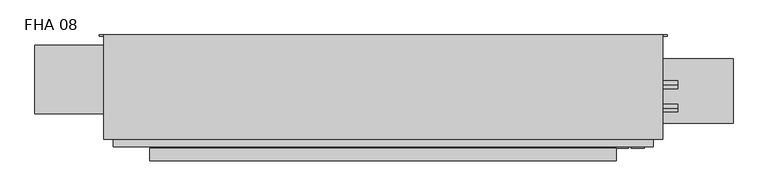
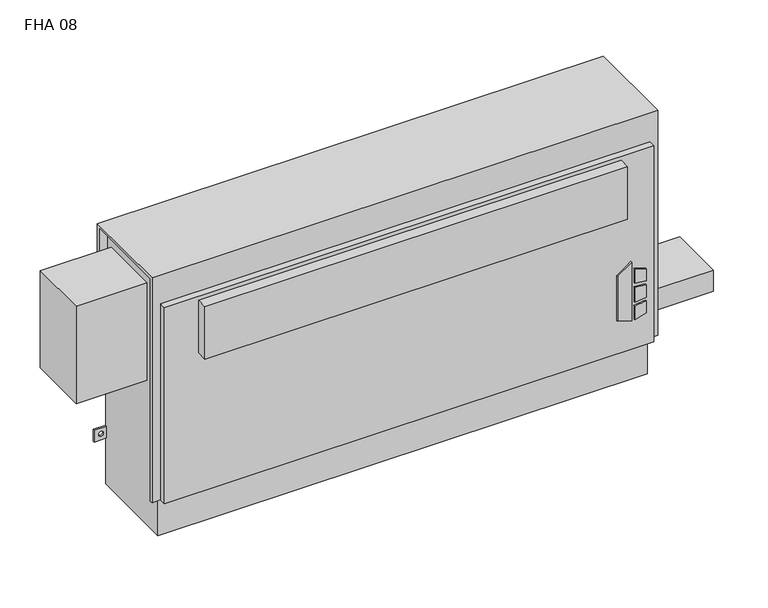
"""IFC4 building model written with IfcOpenShell, lengths in millimetres: proxy geometry, Vertical_Fan_Coil_Unit_-_FHA_-_IEC_-_2-Pipe_FS-FR_RH_2022 : FHA 08."""

from ifc_helpers import new_model, si_unit, point, frame, frame_2d, origin, place, context, project, spatial, polyline, circle_curve, trimmed, segment, composite_curve, outline, extrude, source, transform, mapped, element, save
from ifc_brep_helpers import plane_surface, revolved_surface, advanced_brep


def fha_08_7497d612(model_context):
    return source(origin(), model_context, "Body", "SolidModel", [
        extrude(outline(polyline([(172.5771459, 627.1368862), (162.6290756, 659.3102728), (304.8, 659.3102728), (281.7779939, 627.1368862), (172.5771459, 627.1368862)])), frame((0.0, 9.525, 0.0), z_axis=(0.0, 1.0, 0.0), x_axis=(0.0, 0.0, 1.0)), (0.0, 0.0, 1.0), 3.175),
        extrude(outline(polyline([(251.5764313, 666.0686058), (248.3740387, 692.15), (277.6028798, 692.15), (285.6672948, 666.0686058), (251.5764313, 666.0686058)])), frame((0.0, 9.525, 0.0), z_axis=(0.0, 1.0, 0.0), x_axis=(0.0, 0.0, 1.0)), (0.0, 0.0, 1.0), 3.175),
        extrude(outline(polyline([(199.7129044, 692.15), (196.0474034, 666.0686058), (162.6290756, 666.0686058), (171.2633128, 692.15), (199.7129044, 692.15)])), frame((0.0, 9.525, 0.0), z_axis=(0.0, 1.0, 0.0), x_axis=(0.0, 0.0, 1.0)), (0.0, 0.0, 1.0), 3.175),
        extrude(outline(polyline([(239.0280658, 692.15), (241.3098921, 666.0686058), (205.3723436, 666.0686058), (208.1136086, 692.15), (239.0280658, 692.15)])), frame((0.0, 9.525, 0.0), z_axis=(0.0, 1.0, 0.0), x_axis=(0.0, 0.0, 1.0)), (0.0, 0.0, 1.0), 3.175),
        extrude(outline(composite_curve([segment(trimmed(circle_curve(frame_2d((774.7, 128.5875)), 9.525), [point((765.175, 128.5875))], [point((784.225, 128.5875))], False, "CARTESIAN"), True, "CONTINUOUS"), segment(trimmed(circle_curve(frame_2d((774.7, 128.5875)), 9.525), [point((784.225, 128.5875))], [point((765.175, 128.5875))], False, "CARTESIAN"), True, "CONTINUOUS")], self_intersect=False)), frame((0.0, 0.0, 101.6), z_axis=(0.0, 0.0, 1.0), x_axis=(1.0, 0.0, 0.0)), (0.0, 0.0, 1.0), 25.4),
        extrude(outline(polyline([(876.3, 195.2625), (876.3, 61.9125), (711.2, 61.9125), (711.2, 195.2625), (876.3, 195.2625)])), frame((0.0, 0.0, 127.0), z_axis=(0.0, 0.0, 1.0), x_axis=(1.0, 0.0, 0.0)), (0.0, 0.0, 1.0), 50.8),
        extrude(outline(polyline([(635.0, -15.875), (-330.2, -15.875), (-330.2, 9.525), (635.0, 9.525), (635.0, -15.875)])), frame((0.0, 0.0, 431.8), z_axis=(0.0, 0.0, 1.0), x_axis=(1.0, 0.0, 0.0)), (0.0, 0.0, 1.0), 127.0),
        extrude(outline(composite_curve([segment(trimmed(circle_curve(frame_2d((93.1926, 488.0102)), 7.9375), [point((93.1926, 480.0727))], [point((93.1926, 495.9477))], False, "CARTESIAN"), True, "CONTINUOUS"), segment(trimmed(circle_curve(frame_2d((93.1926, 488.0102)), 7.9375), [point((93.1926, 495.9477))], [point((93.1926, 480.0727))], False, "CARTESIAN"), True, "CONTINUOUS")], self_intersect=False)), frame((711.2, 0.0, 0.0), z_axis=(1.0, 0.0, 0.0), x_axis=(0.0, 1.0, 0.0)), (0.0, 0.0, 1.0), 50.8),
        extrude(outline(composite_curve([segment(trimmed(circle_curve(frame_2d((141.3002, 461.3402)), 7.9375), [point((141.3002, 453.4027))], [point((141.3002, 469.2777))], False, "CARTESIAN"), True, "CONTINUOUS"), segment(trimmed(circle_curve(frame_2d((141.3002, 461.3402)), 7.9375), [point((141.3002, 469.2777))], [point((141.3002, 453.4027))], False, "CARTESIAN"), True, "CONTINUOUS")], self_intersect=False)), frame((711.2, 0.0, 0.0), z_axis=(1.0, 0.0, 0.0), x_axis=(0.0, 1.0, 0.0)), (0.0, 0.0, 1.0), 50.8),
        extrude(outline(polyline([(-406.4, 223.266), (-406.4, 81.534), (-568.325, 81.534), (-568.325, 223.266), (-406.4, 223.266)])), frame((0.0, 0.0, 349.25), z_axis=(0.0, 0.0, 1.0), x_axis=(1.0, 0.0, 0.0)), (0.0, 0.0, 1.0), 234.95),
        advanced_brep(
        [(730.25, 244.475, 635.0), (-425.45, 244.475, 635.0), (-425.45, 28.575, 635.0), (730.25, 28.575, 635.0), (-406.4, 244.475, 0.0), (711.2, 244.475, 0.0), (711.2, 38.1, 0.0), (-406.4, 38.1, 0.0), (730.25, 244.475, 558.8), (711.2, 244.475, 558.8), (711.2, 244.475, 414.3375), (739.775, 244.475, 414.3375), (739.775, 244.475, 385.7625), (711.2, 244.475, 385.7625), (711.2, 244.475, 287.3375), (739.775, 244.475, 287.3375), (739.775, 244.475, 258.7625), (711.2, 244.475, 258.7625), (711.2, 244.475, 141.2875), (739.775, 244.475, 141.2875), (739.775, 244.475, 112.7125), (711.2, 244.475, 112.7125), (-406.4, 244.475, 112.7125), (-434.975, 244.475, 112.7125), (-434.975, 244.475, 141.2875), (-406.4, 244.475, 141.2875), (-406.4, 244.475, 258.7625), (-434.975, 244.475, 258.7625), (-434.975, 244.475, 287.3375), (-406.4, 244.475, 287.3375), (-406.4, 244.475, 385.7625), (-434.975, 244.475, 385.7625), (-434.975, 244.475, 414.3375), (-406.4, 244.475, 414.3375), (-406.4, 244.475, 558.8), (-425.45, 244.475, 558.8), (729.4626, 244.475, 127.0), (718.3374, 244.475, 127.0), (-413.5374, 244.475, 127.0), (-424.6626, 244.475, 127.0), (729.4626, 244.475, 273.05), (718.3374, 244.475, 273.05), (-413.5374, 244.475, 273.05), (-424.6626, 244.475, 273.05), (729.4626, 244.475, 400.05), (718.3374, 244.475, 400.05), (-413.5374, 244.475, 400.05), (-424.6626, 244.475, 400.05), (-425.45, 238.125, 558.8), (-425.45, 238.125, 628.65), (-425.45, 34.925, 628.65), (-425.45, 34.925, 92.075), (-425.45, 28.575, 92.075), (711.2, 12.7, 565.15), (-406.4, 12.7, 565.15), (-406.4, 12.7, 92.075), (711.2, 12.7, 92.075), (730.25, 28.575, 92.075), (730.25, 34.925, 92.075), (730.25, 34.925, 628.65), (730.25, 238.125, 628.65), (730.25, 238.125, 558.8), (-406.4, 28.575, 92.075), (-406.4, 28.575, 565.15), (711.2, 28.575, 565.15), (711.2, 28.575, 92.075), (-406.4, 34.925, 92.075), (-406.4, 38.1, 92.075), (711.2, 38.1, 92.075), (711.2, 34.925, 92.075), (711.2, 241.3, 112.7125), (711.2, 241.3, 141.2875), (711.2, 241.3, 258.7625), (711.2, 241.3, 287.3375), (711.2, 241.3, 385.7625), (711.2, 241.3, 414.3375), (711.2, 238.125, 558.8), (711.2, 238.125, 628.65), (711.2, 34.925, 628.65), (-406.4, 34.925, 628.65), (-406.4, 238.125, 628.65), (-406.4, 238.125, 558.8), (-406.4, 241.3, 414.3375), (-406.4, 241.3, 385.7625), (-406.4, 241.3, 287.3375), (-406.4, 241.3, 258.7625), (-406.4, 241.3, 141.2875), (-406.4, 241.3, 112.7125), (739.775, 241.3, 112.7125), (739.775, 241.3, 141.2875), (718.3374, 241.3, 127.0), (729.4626, 241.3, 127.0), (739.775, 241.3, 258.7625), (739.775, 241.3, 287.3375), (718.3374, 241.3, 273.05), (729.4626, 241.3, 273.05), (739.775, 241.3, 385.7625), (739.775, 241.3, 414.3375), (718.3374, 241.3, 400.05), (729.4626, 241.3, 400.05), (-434.975, 241.3, 141.2875), (-434.975, 241.3, 112.7125), (-424.6626, 241.3, 127.0), (-413.5374, 241.3, 127.0), (-434.975, 241.3, 287.3375), (-434.975, 241.3, 258.7625), (-424.6626, 241.3, 273.05), (-413.5374, 241.3, 273.05), (-434.975, 241.3, 414.3375), (-434.975, 241.3, 385.7625), (-424.6626, 241.3, 400.05), (-413.5374, 241.3, 400.05)],
        [
            (0, 1),
            (1, 2),
            (2, 3),
            (3, 0),
            (4, 5),
            (5, 6),
            (6, 7),
            (7, 4),
            (0, 8),
            (8, 9),
            (9, 10),
            (10, 11),
            (11, 12),
            (12, 13),
            (13, 14),
            (14, 15),
            (15, 16),
            (16, 17),
            (17, 18),
            (18, 19),
            (19, 20),
            (20, 21),
            (21, 5),
            (4, 22),
            (22, 23),
            (23, 24),
            (24, 25),
            (25, 26),
            (26, 27),
            (27, 28),
            (28, 29),
            (29, 30),
            (30, 31),
            (31, 32),
            (32, 33),
            (33, 34),
            (34, 35),
            (35, 1),
            (36, 37, circle_curve(frame((723.9, 244.475, 127.0), z_axis=(0.0, -1.0, 0.0), x_axis=(-1.0, 0.0, 0.0)), 5.5626)),
            (37, 36, circle_curve(frame((723.9, 244.475, 127.0), z_axis=(0.0, -1.0, 0.0), x_axis=(-1.0, 0.0, 0.0)), 5.5626)),
            (38, 39, circle_curve(frame((-419.1, 244.475, 127.0), z_axis=(0.0, -1.0, 0.0), x_axis=(-1.0, 0.0, 0.0)), 5.5626)),
            (39, 38, circle_curve(frame((-419.1, 244.475, 127.0), z_axis=(0.0, -1.0, 0.0), x_axis=(-1.0, 0.0, 0.0)), 5.5626)),
            (40, 41, circle_curve(frame((723.9, 244.475, 273.05), z_axis=(0.0, -1.0, 0.0), x_axis=(-1.0, 0.0, 0.0)), 5.5626)),
            (41, 40, circle_curve(frame((723.9, 244.475, 273.05), z_axis=(0.0, -1.0, 0.0), x_axis=(-1.0, 0.0, 0.0)), 5.5626)),
            (42, 43, circle_curve(frame((-419.1, 244.475, 273.05), z_axis=(0.0, -1.0, 0.0), x_axis=(-1.0, 0.0, 0.0)), 5.5626)),
            (43, 42, circle_curve(frame((-419.1, 244.475, 273.05), z_axis=(0.0, -1.0, 0.0), x_axis=(-1.0, 0.0, 0.0)), 5.5626)),
            (44, 45, circle_curve(frame((723.9, 244.475, 400.05), z_axis=(0.0, -1.0, 0.0), x_axis=(-1.0, 0.0, 0.0)), 5.5626)),
            (45, 44, circle_curve(frame((723.9, 244.475, 400.05), z_axis=(0.0, -1.0, 0.0), x_axis=(-1.0, 0.0, 0.0)), 5.5626)),
            (46, 47, circle_curve(frame((-419.1, 244.475, 400.05), z_axis=(0.0, -1.0, 0.0), x_axis=(-1.0, 0.0, 0.0)), 5.5626)),
            (47, 46, circle_curve(frame((-419.1, 244.475, 400.05), z_axis=(0.0, -1.0, 0.0), x_axis=(-1.0, 0.0, 0.0)), 5.5626)),
            (35, 48),
            (48, 49),
            (49, 50),
            (50, 51),
            (51, 52),
            (52, 2),
            (53, 54),
            (54, 55),
            (55, 56),
            (56, 53),
            (3, 57),
            (57, 58),
            (58, 59),
            (59, 60),
            (60, 61),
            (61, 8),
            (52, 62),
            (62, 63),
            (63, 64),
            (64, 65),
            (65, 57),
            (53, 64),
            (63, 54),
            (55, 62),
            (51, 66),
            (66, 67),
            (67, 68),
            (68, 69),
            (69, 58),
            (65, 56),
            (6, 68),
            (67, 7),
            (21, 70),
            (70, 71),
            (71, 18),
            (17, 72),
            (72, 73),
            (73, 14),
            (13, 74),
            (74, 75),
            (75, 10),
            (9, 76),
            (76, 77),
            (77, 78),
            (78, 69),
            (66, 79),
            (79, 80),
            (80, 81),
            (81, 34),
            (33, 82),
            (82, 83),
            (83, 30),
            (29, 84),
            (84, 85),
            (85, 26),
            (25, 86),
            (86, 87),
            (87, 22),
            (76, 61),
            (60, 77),
            (78, 59),
            (50, 79),
            (81, 48),
            (80, 49),
            (70, 88),
            (88, 89),
            (89, 71),
            (90, 91, circle_curve(frame((723.9, 241.3, 127.0), z_axis=(0.0, 1.0, 0.0), x_axis=(-1.0, 0.0, 0.0)), 5.5626)),
            (91, 90, circle_curve(frame((723.9, 241.3, 127.0), z_axis=(0.0, 1.0, 0.0), x_axis=(-1.0, 0.0, 0.0)), 5.5626)),
            (92, 93),
            (93, 73),
            (72, 92),
            (94, 95, circle_curve(frame((723.9, 241.3, 273.05), z_axis=(0.0, 1.0, 0.0), x_axis=(-1.0, 0.0, 0.0)), 5.5626)),
            (95, 94, circle_curve(frame((723.9, 241.3, 273.05), z_axis=(0.0, 1.0, 0.0), x_axis=(-1.0, 0.0, 0.0)), 5.5626)),
            (96, 97),
            (97, 75),
            (74, 96),
            (98, 99, circle_curve(frame((723.9, 241.3, 400.05), z_axis=(0.0, 1.0, 0.0), x_axis=(-1.0, 0.0, 0.0)), 5.5626)),
            (99, 98, circle_curve(frame((723.9, 241.3, 400.05), z_axis=(0.0, 1.0, 0.0), x_axis=(-1.0, 0.0, 0.0)), 5.5626)),
            (100, 101),
            (101, 87),
            (86, 100),
            (102, 103, circle_curve(frame((-419.1, 241.3, 127.0), z_axis=(0.0, 1.0, 0.0), x_axis=(-1.0, 0.0, 0.0)), 5.5626)),
            (103, 102, circle_curve(frame((-419.1, 241.3, 127.0), z_axis=(0.0, 1.0, 0.0), x_axis=(-1.0, 0.0, 0.0)), 5.5626)),
            (84, 104),
            (104, 105),
            (105, 85),
            (106, 107, circle_curve(frame((-419.1, 241.3, 273.05), z_axis=(0.0, 1.0, 0.0), x_axis=(-1.0, 0.0, 0.0)), 5.5626)),
            (107, 106, circle_curve(frame((-419.1, 241.3, 273.05), z_axis=(0.0, 1.0, 0.0), x_axis=(-1.0, 0.0, 0.0)), 5.5626)),
            (108, 109),
            (109, 83),
            (82, 108),
            (110, 111, circle_curve(frame((-419.1, 241.3, 400.05), z_axis=(0.0, 1.0, 0.0), x_axis=(-1.0, 0.0, 0.0)), 5.5626)),
            (111, 110, circle_curve(frame((-419.1, 241.3, 400.05), z_axis=(0.0, 1.0, 0.0), x_axis=(-1.0, 0.0, 0.0)), 5.5626)),
            (89, 19),
            (88, 20),
            (16, 92),
            (93, 15),
            (12, 96),
            (97, 11),
            (24, 100),
            (101, 23),
            (105, 27),
            (104, 28),
            (32, 108),
            (109, 31),
            (90, 37),
            (36, 91),
            (102, 39),
            (38, 103),
            (94, 41),
            (40, 95),
            (106, 43),
            (42, 107),
            (98, 45),
            (44, 99),
            (110, 47),
            (46, 111),
        ],
        [
            plane_surface(frame((-425.45, 244.475, 635.0), z_axis=(0.0, 0.0, 1.0), x_axis=(-1.0, 0.0, 0.0))),
            plane_surface(frame((-425.45, 244.475, 0.0), z_axis=(0.0, 0.0, -1.0), x_axis=(1.0, 0.0, 0.0))),
            plane_surface(frame((730.25, 244.475, 635.0), z_axis=(0.0, 1.0, 0.0), x_axis=(0.0, 0.0, -1.0))),
            plane_surface(frame((-425.45, 244.475, 635.0), z_axis=(-1.0, 0.0, 0.0), x_axis=(0.0, 0.0, -1.0))),
            plane_surface(frame((-425.45, 12.7, 635.0), z_axis=(0.0, -1.0, 0.0), x_axis=(0.0, 0.0, -1.0))),
            plane_surface(frame((730.25, 12.7, 635.0), z_axis=(1.0, 0.0, 0.0), x_axis=(0.0, 0.0, -1.0))),
            plane_surface(frame((-704.85, 28.575, 635.0), z_axis=(0.0, -1.0, 0.0), x_axis=(1.0, 0.0, 0.0))),
            plane_surface(frame((-704.85, 28.575, 565.15), z_axis=(0.0, 0.0, 1.0), x_axis=(1.0, 0.0, 0.0))),
            plane_surface(frame((-425.45, 12.7, 92.075), z_axis=(0.0, 0.0, -1.0), x_axis=(1.0, 0.0, 0.0))),
            plane_surface(frame((-425.45, 38.1, 92.075), z_axis=(0.0, -1.0, 0.0), x_axis=(1.0, 0.0, 0.0))),
            plane_surface(frame((711.2, 28.575, 92.075), z_axis=(1.0, 0.0, 0.0), x_axis=(0.0, -1.0, 0.0))),
            plane_surface(frame((-406.4, 28.575, 565.15), z_axis=(-1.0, 0.0, 0.0), x_axis=(0.0, -1.0, 0.0))),
            plane_surface(frame((711.2, 244.475, 0.0), z_axis=(1.0, 0.0, 0.0), x_axis=(0.0, -1.0, 0.0))),
            plane_surface(frame((-406.4, 244.475, 92.075), z_axis=(-1.0, 0.0, 0.0), x_axis=(0.0, -1.0, 0.0))),
            plane_surface(frame((711.2, 238.125, 628.65), z_axis=(0.0, -1.0, 0.0), x_axis=(1.0, 0.0, 0.0))),
            plane_surface(frame((711.2, 238.125, 558.8), z_axis=(0.0, 0.0, -1.0), x_axis=(1.0, 0.0, 0.0))),
            plane_surface(frame((711.2, 34.925, 92.075), z_axis=(0.0, 1.0, 0.0), x_axis=(1.0, 0.0, 0.0))),
            plane_surface(frame((711.2, 34.925, 628.65), z_axis=(0.0, 0.0, -1.0), x_axis=(1.0, 0.0, 0.0))),
            plane_surface(frame((-406.4, 34.925, 628.65), z_axis=(0.0, 1.0, 0.0), x_axis=(-1.0, 0.0, 0.0))),
            plane_surface(frame((-406.4, 244.475, 558.8), z_axis=(0.0, 0.0, -1.0), x_axis=(-1.0, 0.0, 0.0))),
            plane_surface(frame((-406.4, 238.125, 558.8), z_axis=(0.0, -1.0, 0.0), x_axis=(-1.0, 0.0, 0.0))),
            plane_surface(frame((-406.4, 238.125, 628.65), z_axis=(0.0, 0.0, -1.0), x_axis=(-1.0, 0.0, 0.0))),
            plane_surface(frame((739.775, 241.3, 141.2875), z_axis=(0.0, -1.0, 0.0), x_axis=(-1.0, 0.0, 0.0))),
            plane_surface(frame((711.2, 244.475, 141.2875), z_axis=(0.0, 0.0, 1.0), x_axis=(0.0, -1.0, 0.0))),
            plane_surface(frame((739.775, 244.475, 141.2875), z_axis=(1.0, 0.0, 0.0), x_axis=(0.0, -1.0, 0.0))),
            plane_surface(frame((739.775, 244.475, 112.7125), z_axis=(0.0, 0.0, -1.0), x_axis=(0.0, -1.0, 0.0))),
            plane_surface(frame((739.775, 244.475, 258.7625), z_axis=(0.0, 0.0, -1.0), x_axis=(0.0, -1.0, 0.0))),
            plane_surface(frame((711.2, 244.475, 287.3375), z_axis=(0.0, 0.0, 1.0), x_axis=(0.0, -1.0, 0.0))),
            plane_surface(frame((739.775, 244.475, 287.3375), z_axis=(1.0, 0.0, 0.0), x_axis=(0.0, -1.0, 0.0))),
            plane_surface(frame((739.775, 244.475, 385.7625), z_axis=(0.0, 0.0, -1.0), x_axis=(0.0, -1.0, 0.0))),
            plane_surface(frame((711.2, 244.475, 414.3375), z_axis=(0.0, 0.0, 1.0), x_axis=(0.0, -1.0, 0.0))),
            plane_surface(frame((739.775, 244.475, 414.3375), z_axis=(1.0, 0.0, 0.0), x_axis=(0.0, -1.0, 0.0))),
            plane_surface(frame((-434.975, 244.475, 141.2875), z_axis=(0.0, 0.0, 1.0), x_axis=(0.0, -1.0, 0.0))),
            plane_surface(frame((-406.4, 244.475, 112.7125), z_axis=(0.0, 0.0, -1.0), x_axis=(0.0, -1.0, 0.0))),
            plane_surface(frame((-434.975, 244.475, 112.7125), z_axis=(-1.0, 0.0, 0.0), x_axis=(0.0, -1.0, 0.0))),
            plane_surface(frame((-406.4, 244.475, 258.7625), z_axis=(0.0, 0.0, -1.0), x_axis=(0.0, -1.0, 0.0))),
            plane_surface(frame((-434.975, 244.475, 258.7625), z_axis=(-1.0, 0.0, 0.0), x_axis=(0.0, -1.0, 0.0))),
            plane_surface(frame((-434.975, 244.475, 287.3375), z_axis=(0.0, 0.0, 1.0), x_axis=(0.0, -1.0, 0.0))),
            plane_surface(frame((-434.975, 244.475, 414.3375), z_axis=(0.0, 0.0, 1.0), x_axis=(0.0, -1.0, 0.0))),
            plane_surface(frame((-406.4, 244.475, 385.7625), z_axis=(0.0, 0.0, -1.0), x_axis=(0.0, -1.0, 0.0))),
            plane_surface(frame((-434.975, 244.475, 385.7625), z_axis=(-1.0, 0.0, 0.0), x_axis=(0.0, -1.0, 0.0))),
            revolved_surface(polyline([(718.3374, 241.3, 127.0), (718.3374, 244.475, 127.0)]), (723.9, 244.475, 127.0), (0.0, -1.0, 0.0)),
            revolved_surface(polyline([(-424.6626, 241.3, 127.0), (-424.6626, 244.475, 127.0)]), (-419.1, 244.475, 127.0), (0.0, -1.0, 0.0)),
            revolved_surface(polyline([(718.3374, 241.3, 273.05), (718.3374, 244.475, 273.05)]), (723.9, 244.475, 273.05), (0.0, -1.0, 0.0)),
            revolved_surface(polyline([(-424.6626, 241.3, 273.05), (-424.6626, 244.475, 273.05)]), (-419.1, 244.475, 273.05), (0.0, -1.0, 0.0)),
            revolved_surface(polyline([(718.3374, 241.3, 400.05), (718.3374, 244.475, 400.05)]), (723.9, 244.475, 400.05), (0.0, -1.0, 0.0)),
            revolved_surface(polyline([(-424.6626, 241.3, 400.05), (-424.6626, 244.475, 400.05)]), (-419.1, 244.475, 400.05), (0.0, -1.0, 0.0)),
        ],
        [
            (0, [[1, 2, 3, 4]]),
            (1, [[5, 6, 7, 8]]),
            (2, [[-1, 9, 10, 11, 12, 13, 14, 15, 16, 17, 18, 19, 20, 21, 22, 23, -5, 24, 25, 26, 27, 28, 29, 30, 31, 32, 33, 34, 35, 36, 37, 38], [39, 40], [41, 42], [43, 44], [45, 46], [47, 48], [49, 50]]),
            (3, [[-2, -38, 51, 52, 53, 54, 55, 56]]),
            (4, [[57, 58, 59, 60]]),
            (5, [[-4, 61, 62, 63, 64, 65, 66, -9]]),
            (6, [[-3, -56, 67, 68, 69, 70, 71, -61]]),
            (7, [[-57, 72, -69, 73]]),
            (8, [[-59, 74, -67, -55, 75, 76, 77, 78, 79, -62, -71, 80]]),
            (9, [[-7, 81, -77, 82]]),
            (10, [[-70, -72, -60, -80]]),
            (11, [[-68, -74, -58, -73]]),
            (12, [[-6, -23, 83, 84, 85, -19, 86, 87, 88, -15, 89, 90, 91, -11, 92, 93, 94, 95, -78, -81]]),
            (13, [[-8, -82, -76, 96, 97, 98, 99, -36, 100, 101, 102, -32, 103, 104, 105, -28, 106, 107, 108, -24]]),
            (14, [[-93, 109, -65, 110]]),
            (15, [[-92, -10, -66, -109]]),
            (16, [[-95, 111, -63, -79]]),
            (17, [[-94, -110, -64, -111]]),
            (18, [[-96, -75, -54, 112]]),
            (19, [[-99, 113, -51, -37]]),
            (20, [[-98, 114, -52, -113]]),
            (21, [[-97, -112, -53, -114]]),
            (22, [[115, 116, 117, -84], [118, 119]]),
            (22, [[120, 121, -87, 122], [123, 124]]),
            (22, [[125, 126, -90, 127], [128, 129]]),
            (22, [[130, 131, -107, 132], [133, 134]]),
            (22, [[135, 136, 137, -104], [138, 139]]),
            (22, [[140, 141, -101, 142], [143, 144]]),
            (23, [[-117, 145, -20, -85]]),
            (24, [[-116, 146, -21, -145]]),
            (25, [[-115, -83, -22, -146]]),
            (26, [[-122, -86, -18, 147]]),
            (27, [[-121, 148, -16, -88]]),
            (28, [[-120, -147, -17, -148]]),
            (29, [[-127, -89, -14, 149]]),
            (30, [[-126, 150, -12, -91]]),
            (31, [[-125, -149, -13, -150]]),
            (32, [[-132, -106, -27, 151]]),
            (33, [[-131, 152, -25, -108]]),
            (34, [[-130, -151, -26, -152]]),
            (35, [[-137, 153, -29, -105]]),
            (36, [[-136, 154, -30, -153]]),
            (37, [[-135, -103, -31, -154]]),
            (38, [[-142, -100, -35, 155]]),
            (39, [[-141, 156, -33, -102]]),
            (40, [[-140, -155, -34, -156]]),
            (41, [[157, -39, 158, -118]]),
            (41, [[-157, -119, -158, -40]]),
            (42, [[159, -41, 160, -133]]),
            (42, [[-159, -134, -160, -42]]),
            (43, [[161, -43, 162, -123]]),
            (43, [[-161, -124, -162, -44]]),
            (44, [[163, -45, 164, -138]]),
            (44, [[-163, -139, -164, -46]]),
            (45, [[165, -47, 166, -128]]),
            (45, [[-165, -129, -166, -48]]),
            (46, [[167, -49, 168, -143]]),
            (46, [[-167, -144, -168, -50]]),
        ],
    ),
    ])


if __name__ == "__main__":
    model = new_model("IFC4")
    model_context = context("Model", 3, world=origin())
    ifc_project = project(units=[si_unit("LENGTHUNIT", "METRE", prefix="MILLI")], contexts=[model_context])
    site = spatial("IfcSite", under=ifc_project)
    building = spatial("IfcBuilding", under=site)
    placement = place(None, origin())
    fha_08_shape = fha_08_7497d612(model_context)
    element("IfcBuildingElementProxy", 1, Name="Vertical_Fan_Coil_Unit_-_FHA_-_IEC_-_2-Pipe_FS-FR_RH_2022 : FHA 08", ObjectType="Vertical_Fan_Coil_Unit_-_FHA_-_IEC_-_2-Pipe_FS-FR_RH_2022 : FHA 08", at=placement, inside=building, context=model_context, shape_type="MappedRepresentation", body=[
        mapped(fha_08_shape, transform((0.0, 0.0, 0.0), x_axis=(1.0, 0.0, 0.0), y_axis=(0.0, 1.0, 0.0), z_axis=(0.0, 0.0, 1.0))),
    ])
    save(model, "model.ifc")
